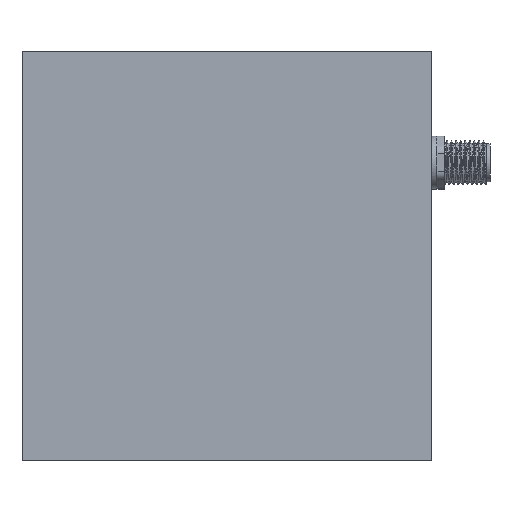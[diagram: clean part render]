
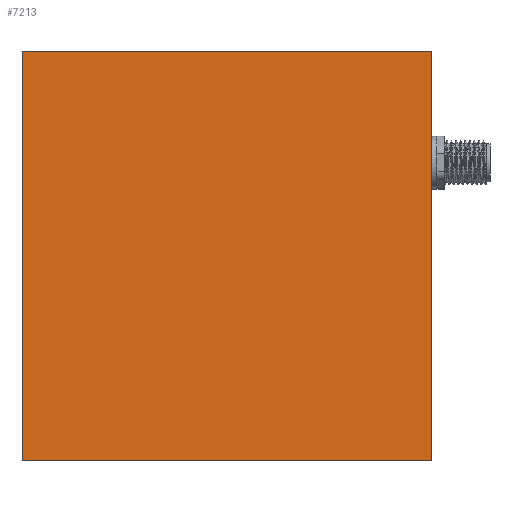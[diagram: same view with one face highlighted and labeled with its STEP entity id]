
A CAD part, top view. The second image highlights one B-rep face of the part: STEP entity #7213.
In plain terms, the highlighted planar face has unit normal (0, 0, 1).
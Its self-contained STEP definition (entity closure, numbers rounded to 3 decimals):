
#48 = DIRECTION ( 'NONE',  ( 0., 1., 0. ) ) ;
#392 = VECTOR ( 'NONE', #5315, 1000. ) ;
#679 = CARTESIAN_POINT ( 'NONE',  ( -5., 107., 21.06 ) ) ;
#1120 = CARTESIAN_POINT ( 'NONE',  ( 107., 107., 21.06 ) ) ;
#1401 = PLANE ( 'NONE',  #8360 ) ;
#1474 = DIRECTION ( 'NONE',  ( 0., 0., -1. ) ) ;
#2183 = CARTESIAN_POINT ( 'NONE',  ( 107., -5., 21.06 ) ) ;
#2286 = VECTOR ( 'NONE', #4973, 1000. ) ;
#2320 = VERTEX_POINT ( 'NONE', #9647 ) ;
#2471 = VERTEX_POINT ( 'NONE', #14562 ) ;
#3005 = DIRECTION ( 'NONE',  ( 1., 0., 0. ) ) ;
#3176 = EDGE_LOOP ( 'NONE', ( #10804, #7171, #5842, #8536 ) ) ;
#4054 = CARTESIAN_POINT ( 'NONE',  ( -5., -5., 21.06 ) ) ;
#4967 = FACE_OUTER_BOUND ( 'NONE', #3176, .T. ) ;
#4973 = DIRECTION ( 'NONE',  ( 0., -1., 0. ) ) ;
#5315 = DIRECTION ( 'NONE',  ( -1., 0., 0. ) ) ;
#5842 = ORIENTED_EDGE ( 'NONE', *, *, #12824, .T. ) ;
#6002 = VECTOR ( 'NONE', #48, 1000. ) ;
#6273 = LINE ( 'NONE', #4054, #2286 ) ;
#6341 = DIRECTION ( 'NONE',  ( -1., 0., 0. ) ) ;
#6463 = LINE ( 'NONE', #679, #392 ) ;
#7171 = ORIENTED_EDGE ( 'NONE', *, *, #13267, .T. ) ;
#7213 = ADVANCED_FACE ( 'NONE', ( #4967 ), #1401, .F. ) ;
#7475 = CARTESIAN_POINT ( 'NONE',  ( 0., 0., 21.06 ) ) ;
#8360 = AXIS2_PLACEMENT_3D ( 'NONE', #7475, #1474, #6341 ) ;
#8536 = ORIENTED_EDGE ( 'NONE', *, *, #9733, .T. ) ;
#8952 = CARTESIAN_POINT ( 'NONE',  ( -5., 107., 21.06 ) ) ;
#9391 = EDGE_CURVE ( 'NONE', #2471, #14550, #12057, .T. ) ;
#9647 = CARTESIAN_POINT ( 'NONE',  ( 107., 107., 21.06 ) ) ;
#9733 = EDGE_CURVE ( 'NONE', #14380, #2471, #6273, .T. ) ;
#10804 = ORIENTED_EDGE ( 'NONE', *, *, #9391, .T. ) ;
#12057 = LINE ( 'NONE', #14553, #13936 ) ;
#12824 = EDGE_CURVE ( 'NONE', #2320, #14380, #6463, .T. ) ;
#13267 = EDGE_CURVE ( 'NONE', #14550, #2320, #15026, .T. ) ;
#13936 = VECTOR ( 'NONE', #3005, 1000. ) ;
#14380 = VERTEX_POINT ( 'NONE', #8952 ) ;
#14550 = VERTEX_POINT ( 'NONE', #2183 ) ;
#14553 = CARTESIAN_POINT ( 'NONE',  ( 107., -5., 21.06 ) ) ;
#14562 = CARTESIAN_POINT ( 'NONE',  ( -5., -5., 21.06 ) ) ;
#15026 = LINE ( 'NONE', #1120, #6002 ) ;
